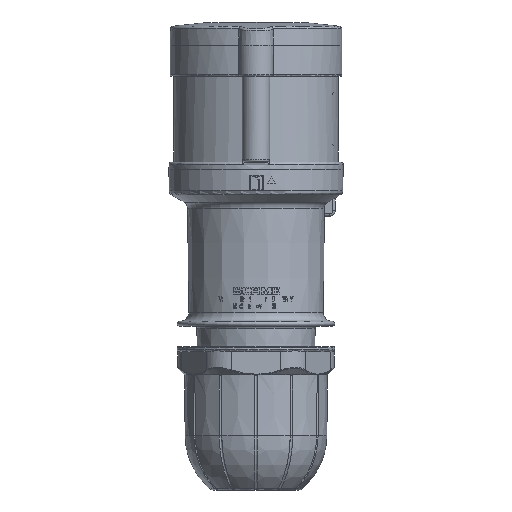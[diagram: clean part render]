
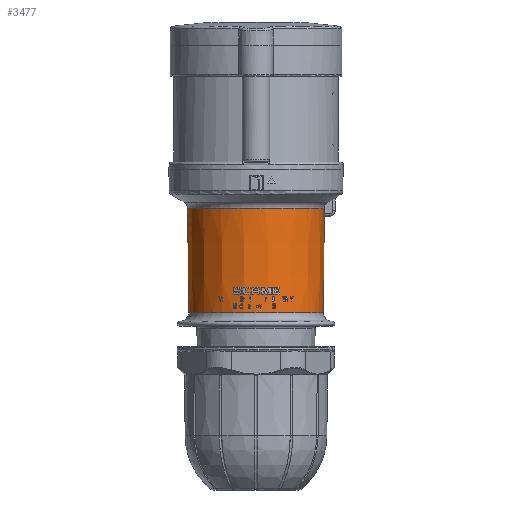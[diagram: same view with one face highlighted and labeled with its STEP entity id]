
A CAD part, front view. The second image highlights one B-rep face of the part: STEP entity #3477.
In plain terms, the highlighted conical face has half-angle 0.5 degrees and reference radius 28.613 mm.
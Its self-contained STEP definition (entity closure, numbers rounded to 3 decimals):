
#125=CONICAL_SURFACE('',#11717,28.613,0.5);
#3477=ADVANCED_FACE('',(#3892),#125,.T.);
#3892=FACE_OUTER_BOUND('',#4271,.T.);
#4271=EDGE_LOOP('',(#6500,#6501,#6502,#6503,#6504,#6505,#6506));
#4595=B_SPLINE_CURVE_WITH_KNOTS('',3,(#35212,#35213,#35214,#35215,#35216,
#35217,#35218,#35219,#35220,#35221,#35222,#35223,#35224,#35225,#35226,#35227),
 .UNSPECIFIED.,.F.,.F.,(4,3,3,3,3,4),(0.,0.215,0.43,
0.645,0.86,1.),.UNSPECIFIED.);
#5312=CIRCLE('',#11667,28.231);
#5314=CIRCLE('',#11670,28.613);
#5330=CIRCLE('',#11716,28.584);
#6500=ORIENTED_EDGE('',*,*,#9683,.T.);
#6501=ORIENTED_EDGE('',*,*,#9631,.T.);
#6502=ORIENTED_EDGE('',*,*,#9623,.F.);
#6503=ORIENTED_EDGE('',*,*,#9611,.T.);
#6504=ORIENTED_EDGE('',*,*,#9571,.T.);
#6505=ORIENTED_EDGE('',*,*,#9608,.F.);
#6506=ORIENTED_EDGE('',*,*,#9569,.F.);
#8188=VERTEX_POINT('',#34668);
#8189=VERTEX_POINT('',#34669);
#8190=VERTEX_POINT('',#34675);
#8191=VERTEX_POINT('',#34677);
#8226=VERTEX_POINT('',#35073);
#8235=VERTEX_POINT('',#35200);
#8236=VERTEX_POINT('',#35228);
#9569=EDGE_CURVE('',#8188,#8189,#10793,.T.);
#9571=EDGE_CURVE('',#8191,#8190,#10794,.T.);
#9608=EDGE_CURVE('',#8189,#8190,#5312,.T.);
#9611=EDGE_CURVE('',#8226,#8191,#5314,.T.);
#9623=EDGE_CURVE('',#8226,#8235,#10796,.T.);
#9631=EDGE_CURVE('',#8236,#8235,#4595,.T.);
#9683=EDGE_CURVE('',#8188,#8236,#5330,.T.);
#10793=LINE('',#34667,#11173);
#10794=LINE('',#34676,#11174);
#10796=LINE('',#35199,#11176);
#11173=VECTOR('',#13023,1.);
#11174=VECTOR('',#13024,1.);
#11176=VECTOR('',#13086,1.);
#11667=AXIS2_PLACEMENT_3D('',#35065,#13053,#13054);
#11670=AXIS2_PLACEMENT_3D('',#35072,#13059,#13060);
#11716=AXIS2_PLACEMENT_3D('',#35757,#13175,#13176);
#11717=AXIS2_PLACEMENT_3D('',#35758,#13177,#13178);
#13023=DIRECTION('',(-0.009,0.,-1.));
#13024=DIRECTION('',(0.009,0.,-1.));
#13053=DIRECTION('',(0.,0.,-1.));
#13054=DIRECTION('',(1.,0.,0.));
#13059=DIRECTION('',(0.,0.,-1.));
#13060=DIRECTION('',(-1.,0.,0.));
#13086=DIRECTION('',(-0.009,0.,-1.));
#13175=DIRECTION('',(0.,0.,-1.));
#13176=DIRECTION('',(1.,0.,0.));
#13177=DIRECTION('',(0.,0.,1.));
#13178=DIRECTION('',(1.,0.,0.));
#34667=CARTESIAN_POINT('',(28.584,0.,-19.5));
#34668=CARTESIAN_POINT('',(28.584,0.,-19.5));
#34669=CARTESIAN_POINT('',(28.231,0.,-59.97));
#34675=CARTESIAN_POINT('',(-28.231,0.,-59.97));
#34676=CARTESIAN_POINT('',(-28.613,0.,-16.159));
#34677=CARTESIAN_POINT('',(-28.613,0.,-16.159));
#35065=CARTESIAN_POINT('',(0.,0.,-59.97));
#35072=CARTESIAN_POINT('',(0.,0.,-16.159));
#35073=CARTESIAN_POINT('',(28.543,-2.,-16.159));
#35199=CARTESIAN_POINT('',(28.543,-2.,-16.159));
#35200=CARTESIAN_POINT('',(28.523,-2.,-18.5));
#35212=CARTESIAN_POINT('',(28.566,-1.,-19.5));
#35213=CARTESIAN_POINT('',(28.563,-1.112,-19.5));
#35214=CARTESIAN_POINT('',(28.558,-1.226,-19.481));
#35215=CARTESIAN_POINT('',(28.553,-1.331,-19.444));
#35216=CARTESIAN_POINT('',(28.549,-1.437,-19.406));
#35217=CARTESIAN_POINT('',(28.544,-1.538,-19.351));
#35218=CARTESIAN_POINT('',(28.54,-1.625,-19.281));
#35219=CARTESIAN_POINT('',(28.535,-1.712,-19.211));
#35220=CARTESIAN_POINT('',(28.531,-1.789,-19.124));
#35221=CARTESIAN_POINT('',(28.528,-1.848,-19.029));
#35222=CARTESIAN_POINT('',(28.525,-1.908,-18.934));
#35223=CARTESIAN_POINT('',(28.523,-1.951,-18.828));
#35224=CARTESIAN_POINT('',(28.522,-1.976,-18.719));
#35225=CARTESIAN_POINT('',(28.522,-1.992,-18.647));
#35226=CARTESIAN_POINT('',(28.522,-2.,-18.573));
#35227=CARTESIAN_POINT('',(28.523,-2.,-18.5));
#35228=CARTESIAN_POINT('',(28.566,-1.,-19.5));
#35757=CARTESIAN_POINT('',(0.,0.,-19.5));
#35758=CARTESIAN_POINT('',(0.,0.,-16.159));
